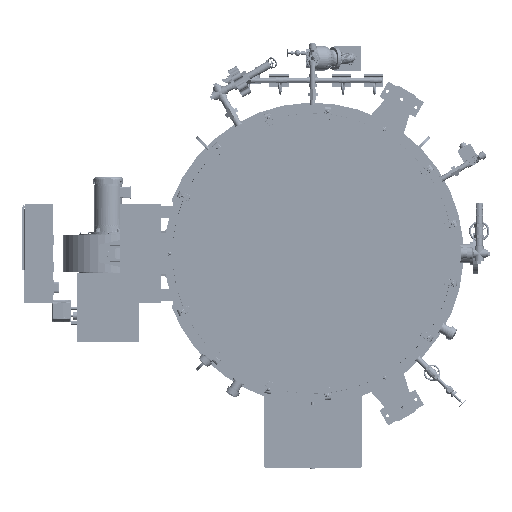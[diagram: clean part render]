
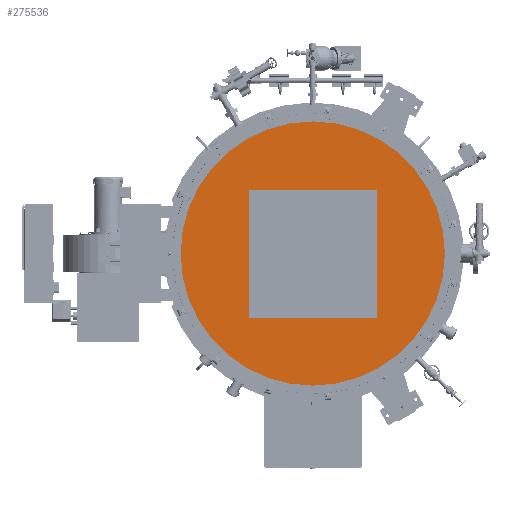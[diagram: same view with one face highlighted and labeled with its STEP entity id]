
A CAD part, front view. The second image highlights one B-rep face of the part: STEP entity #275536.
In plain terms, the highlighted planar face has unit normal (0, -1, 0).
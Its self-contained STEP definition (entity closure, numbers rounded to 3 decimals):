
#10689=FACE_BOUND('',#57630,.T.);
#27850=CIRCLE('',#297805,32.);
#41051=FACE_OUTER_BOUND('',#57629,.T.);
#57629=EDGE_LOOP('',(#189150));
#57630=EDGE_LOOP('',(#189151,#189152,#189153,#189154));
#77759=LINE('',#409340,#97157);
#77763=LINE('',#409348,#97161);
#77766=LINE('',#409354,#97164);
#77769=LINE('',#409359,#97167);
#97157=VECTOR('',#329527,0.394);
#97161=VECTOR('',#329533,0.394);
#97164=VECTOR('',#329538,0.394);
#97167=VECTOR('',#329543,0.394);
#116873=VERTEX_POINT('',#409338);
#116874=VERTEX_POINT('',#409339);
#116877=VERTEX_POINT('',#409347);
#116879=VERTEX_POINT('',#409353);
#116881=VERTEX_POINT('',#409363);
#144776=EDGE_CURVE('',#116873,#116874,#77759,.T.);
#144780=EDGE_CURVE('',#116874,#116877,#77763,.T.);
#144783=EDGE_CURVE('',#116877,#116879,#77766,.T.);
#144786=EDGE_CURVE('',#116879,#116873,#77769,.T.);
#144788=EDGE_CURVE('',#116881,#116881,#27850,.T.);
#189150=ORIENTED_EDGE('',*,*,#144788,.T.);
#189151=ORIENTED_EDGE('',*,*,#144776,.T.);
#189152=ORIENTED_EDGE('',*,*,#144780,.T.);
#189153=ORIENTED_EDGE('',*,*,#144783,.T.);
#189154=ORIENTED_EDGE('',*,*,#144786,.T.);
#268138=PLANE('',#297804);
#275536=ADVANCED_FACE('',(#41051,#10689),#268138,.T.);
#297804=AXIS2_PLACEMENT_3D('',#409362,#329547,#329548);
#297805=AXIS2_PLACEMENT_3D('',#409364,#329549,#329550);
#329527=DIRECTION('',(0.,0.,-1.));
#329533=DIRECTION('',(-1.,0.,0.));
#329538=DIRECTION('',(0.,0.,1.));
#329543=DIRECTION('',(1.,0.,0.));
#329547=DIRECTION('center_axis',(0.,-1.,0.));
#329548=DIRECTION('ref_axis',(0.,0.,-1.));
#329549=DIRECTION('center_axis',(0.,-1.,0.));
#329550=DIRECTION('ref_axis',(1.,0.,0.));
#409338=CARTESIAN_POINT('',(15.5,0.,15.5));
#409339=CARTESIAN_POINT('',(15.5,0.,-15.5));
#409340=CARTESIAN_POINT('',(15.5,0.,-7.75));
#409347=CARTESIAN_POINT('',(-15.5,0.,-15.5));
#409348=CARTESIAN_POINT('',(-7.75,0.,-15.5));
#409353=CARTESIAN_POINT('',(-15.5,0.,15.5));
#409354=CARTESIAN_POINT('',(-15.5,0.,7.75));
#409359=CARTESIAN_POINT('',(7.75,0.,15.5));
#409362=CARTESIAN_POINT('Origin',(0.,0.,0.));
#409363=CARTESIAN_POINT('',(0.,0.,
32.));
#409364=CARTESIAN_POINT('Origin',(0.,0.,0.));
